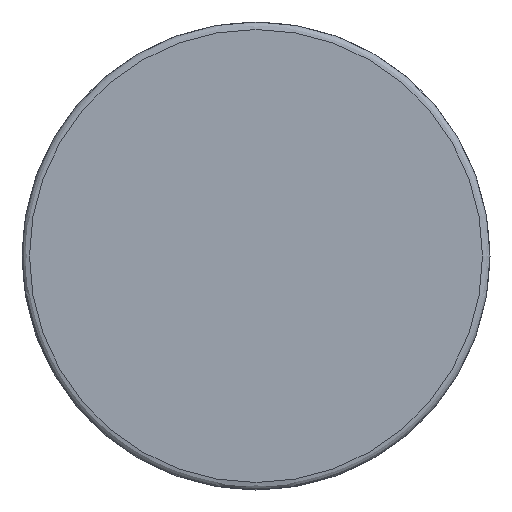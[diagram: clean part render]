
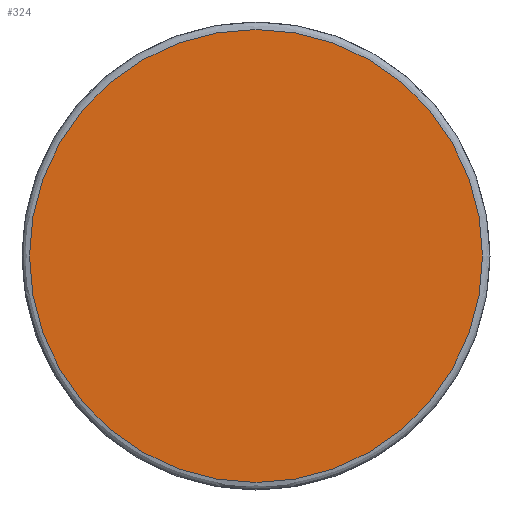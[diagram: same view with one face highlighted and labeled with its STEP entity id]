
A CAD part, left-side view. The second image highlights one B-rep face of the part: STEP entity #324.
In plain terms, the highlighted planar face has unit normal (-1, 0, 0).
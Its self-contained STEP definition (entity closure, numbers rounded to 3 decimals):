
#299=CARTESIAN_POINT('',(-424.185,-458.109,-50.497));
#300=DIRECTION('',(-1.0,0.0,0.0));
#301=DIRECTION('',(0.0,-1.0,0.0));
#302=AXIS2_PLACEMENT_3D('',#299,#300,#301);
#303=PLANE('',#302);
#304=CARTESIAN_POINT('',(-424.185,-512.309,-20.497));
#305=VERTEX_POINT('',#304);
#306=CARTESIAN_POINT('',(-424.185,-463.909,-20.497));
#307=VERTEX_POINT('',#306);
#308=CARTESIAN_POINT('',(-424.185,-488.109,-20.497));
#309=DIRECTION('',(-1.0,0.0,0.0));
#310=DIRECTION('',(0.0,-1.0,0.0));
#311=AXIS2_PLACEMENT_3D('',#308,#309,#310);
#312=CIRCLE('',#311,24.2);
#313=EDGE_CURVE('',#305,#307,#312,.T.);
#314=ORIENTED_EDGE('',*,*,#313,.T.);
#315=CARTESIAN_POINT('',(-424.185,-488.109,-20.497));
#316=DIRECTION('',(-1.0,0.0,0.0));
#317=DIRECTION('',(0.0,-1.0,0.0));
#318=AXIS2_PLACEMENT_3D('',#315,#316,#317);
#319=CIRCLE('',#318,24.2);
#320=EDGE_CURVE('',#307,#305,#319,.T.);
#321=ORIENTED_EDGE('',*,*,#320,.T.);
#322=EDGE_LOOP('',(#314,#321));
#323=FACE_OUTER_BOUND('',#322,.T.);
#324=ADVANCED_FACE('',(#323),#303,.T.);
